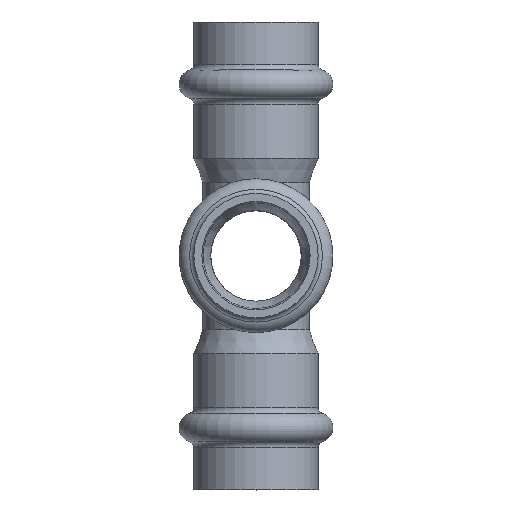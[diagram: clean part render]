
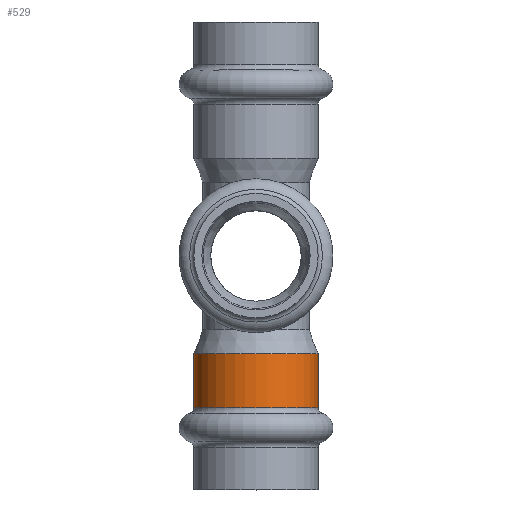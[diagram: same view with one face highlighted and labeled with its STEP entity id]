
A CAD part, top view. The second image highlights one B-rep face of the part: STEP entity #529.
In plain terms, the highlighted cylindrical face has radius 10.5 mm (diameter 21 mm), a full revolution.
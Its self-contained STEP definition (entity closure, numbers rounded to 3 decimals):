
#529=ADVANCED_FACE('',(#1002,#1004),#1006,.T.);
#1002=FACE_OUTER_BOUND('',#1003,.T.);
#1003=EDGE_LOOP('',(#1359));
#1004=FACE_OUTER_BOUND('',#1005,.T.);
#1005=EDGE_LOOP('',(#1360));
#1006=CYLINDRICAL_SURFACE('',#1007,10.5);
#1007=AXIS2_PLACEMENT_3D('',#1008,#1009,#1010);
#1008=CARTESIAN_POINT('',(0.,-25.646,0.));
#1009=DIRECTION('',(0.,1.,0.));
#1010=DIRECTION('',(0.,0.,1.));
#1359=ORIENTED_EDGE('',*,*,#1452,.F.);
#1360=ORIENTED_EDGE('',*,*,#1457,.T.);
#1452=EDGE_CURVE('',#1540,#1540,#1541,.T.);
#1457=EDGE_CURVE('',#1549,#1549,#1550,.T.);
#1540=VERTEX_POINT('',#1748);
#1541=CIRCLE('',#1749,10.5);
#1549=VERTEX_POINT('',#1771);
#1550=CIRCLE('',#1772,10.5);
#1748=CARTESIAN_POINT('',(0.,-16.5,10.5));
#1749=AXIS2_PLACEMENT_3D('',#1750,#1751,#1752);
#1750=CARTESIAN_POINT('',(0.,-16.5,0.));
#1751=DIRECTION('',(0.,1.,0.));
#1752=DIRECTION('',(0.,0.,1.));
#1771=CARTESIAN_POINT('',(0.,-25.646,10.5));
#1772=AXIS2_PLACEMENT_3D('',#1773,#1774,#1775);
#1773=CARTESIAN_POINT('',(0.,-25.646,0.));
#1774=DIRECTION('',(0.,1.,0.));
#1775=DIRECTION('',(0.,0.,1.));
